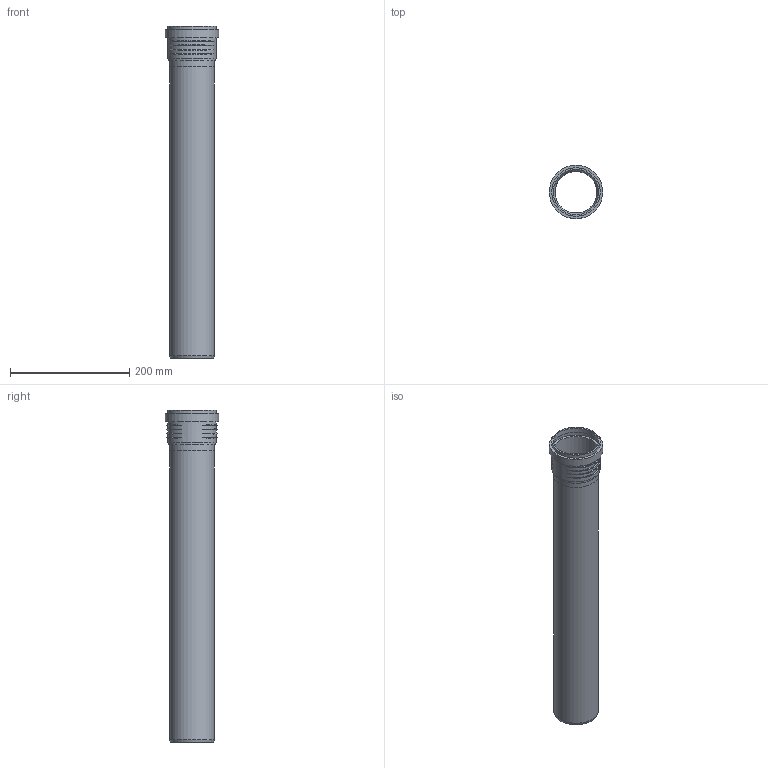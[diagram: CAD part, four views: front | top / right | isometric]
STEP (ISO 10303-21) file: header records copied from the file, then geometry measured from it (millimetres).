
FILE_DESCRIPTION(/* description */ (''),/* implementation_level */ '2;1');
FILE_NAME(/* name */ 'Z:\Geberit\Export\NewStep\390302.stp',/* time_stamp */ '2014-04-02T08:11:09+02:00',/* author */ ('ML'),/* organization */ (''),/* preprocessor_version */ 'ST-DEVELOPER v15.2',/* originating_system */ 'Autodesk Inventor 2014',/* authorisation */ '');
FILE_SCHEMA (('AUTOMOTIVE_DESIGN { 1 0 10303 214 3 1 1 }'));
Length unit declared in the file: millimetre
Products named in the file (3): 861426; 861583ohne; 390302
Bounding box: 89.4 x 89.4 x 555.7 mm (x, y, z)
Volume: 345745.8 mm3; surface area: 268989.6 mm2
Topology: 2 solids, 2 shells, 47 faces, 104 edges, 71 vertices
Faces by surface type: torus 24, cylinder 11, plane 10, cone 2
Full cylindrical faces by diameter (mm): 70 x2, 75.2 x2, 76 x2, 78.6 x1, 81.2 x2, 84.2 x1, 89.4 x1
Entity records: 2003 total; most frequent: CARTESIAN_POINT 962, DIRECTION 182, ORIENTED_EDGE 174, AXIS2_PLACEMENT_3D 91, EDGE_CURVE 87, EDGE_LOOP 78, VERTEX_POINT 71, STYLED_ITEM 49
